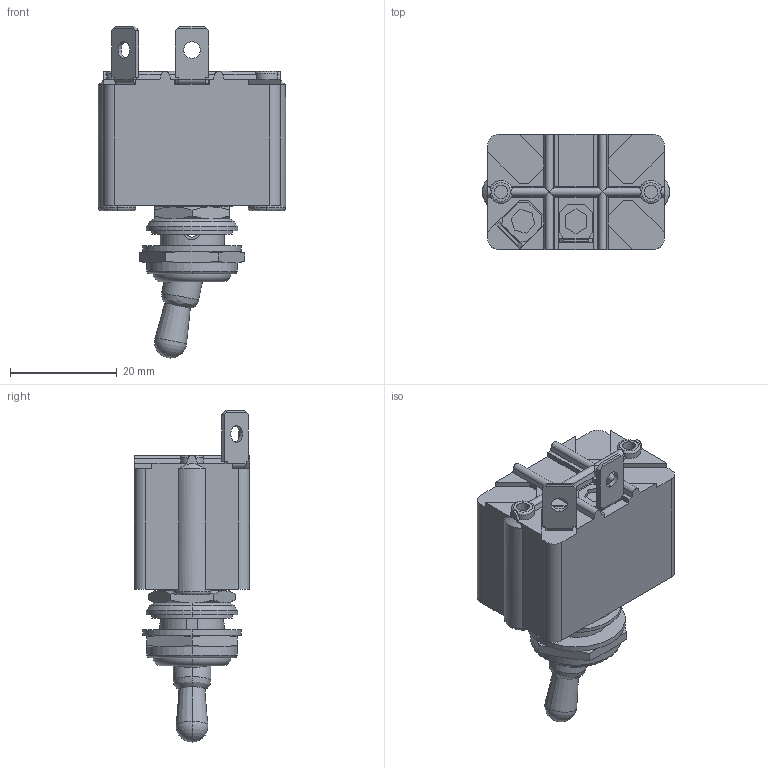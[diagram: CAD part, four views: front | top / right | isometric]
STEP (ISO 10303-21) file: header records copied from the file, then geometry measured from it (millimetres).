
FILE_DESCRIPTION((''),'2;1');
FILE_NAME('3631NF_2G','2009-02-26T',('snouilhan'),(''),'PRO/ENGINEER BY PARAMETRIC TECHNOLOGY CORPORATION, 2008400','PRO/ENGINEER BY PARAMETRIC TECHNOLOGY CORPORATION, 2008400','');
FILE_SCHEMA(('CONFIG_CONTROL_DESIGN'));
Length unit declared in the file: inch
Products named in the file (1): 3631NF_2G
Bounding box: 35 x 21.5 x 62.06 mm (x, y, z)
Volume: 18642.3 mm3; surface area: 8409.6 mm2
Topology: 3 solids, 3 shells, 422 faces, 1093 edges, 685 vertices
Faces by surface type: plane 238, cylinder 93, cone 46, torus 20, bspline 19, sphere 6
Entity records: 14836 total; most frequent: CARTESIAN_POINT 4704, ORIENTED_EDGE 2182, DIRECTION 1994, EDGE_CURVE 1091, AXIS2_PLACEMENT_3D 694, VERTEX_POINT 685, VECTOR 606, LINE 606
